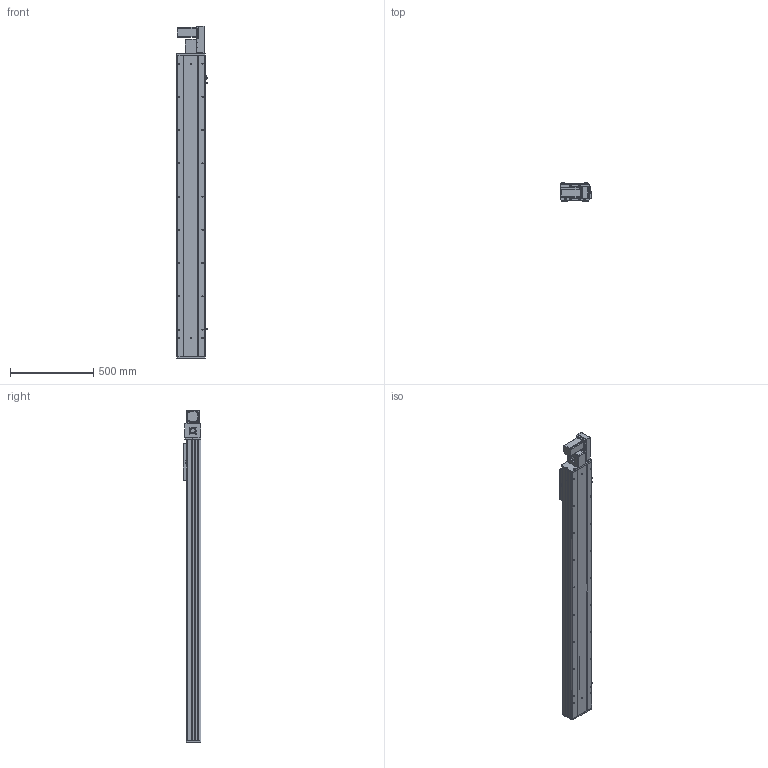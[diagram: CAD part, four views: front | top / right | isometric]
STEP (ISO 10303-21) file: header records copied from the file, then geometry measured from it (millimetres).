
FILE_DESCRIPTION (( 'STEP AP203' ), '1' );
FILE_NAME ('Y170CB-D105-S1500-BR-P400W.STEP', '2020-02-19T09:23:24', ( '微软用户' ), ( '微软中国' ), 'SwSTEP 2.0', 'SolidWorks 2017', '' );
FILE_SCHEMA (( 'CONFIG_CONTROL_DESIGN' ));
Length unit declared in the file: millimetre
Products named in the file (17): --70CB --喘謫眊楊擘啣-; 70CB-耜裔啣-; 70C--詩湍揤踡え-; 70CB-掛极-; 70CB--耜裔; 70C-雄赽釱-奻-; 0C--雄赽釱俋欶-170; 70CB-詩湍--; Y100-135俋离換覜ん--; Y170CB-陔俋离換覜結え---; Y170CB-D105-S1500-BR-P400W; 0B-萇儂楊擘啣; san松下电机400不带刹车----; Y70俋欶BR----; 17B-耜蚾蟀諉啣----; 70B喘謫眊----; B-源倛裔啣
Assembly tree (20 placements, depth 2):
  Y170CB-D105-S1500-BR-P400W
    70B喘謫眊----
    B-源倛裔啣
    17B-耜蚾蟀諉啣----
    0B-萇儂楊擘啣
    san松下电机400不带刹车----
    Y70俋欶BR----
    70CB-掛极-
    --70CB --喘謫眊楊擘啣-
    70CB-耜裔啣-  x2
    70C--詩湍揤踡え-  x2
    70CB--耜裔
    70C-雄赽釱-奻-
    0C--雄赽釱俋欶-170
    70CB-詩湍--
    Y100-135俋离換覜ん--  x3
    Y170CB-陔俋离換覜結え---
Bounding box: 183.5 x 107 x 1997 mm (x, y, z)
Volume: 8500411.1 mm3; surface area: 3050735.4 mm2
Topology: 20 solids, 20 shells, 1017 faces, 2729 edges, 1810 vertices
Faces by surface type: cylinder 531, plane 462, cone 24
Entity records: 32335 total; most frequent: CARTESIAN_POINT 5961, DIRECTION 5260, ORIENTED_EDGE 4940, EDGE_CURVE 2470, AXIS2_PLACEMENT_3D 1925, VERTEX_POINT 1640, VECTOR 1410, LINE 1410
